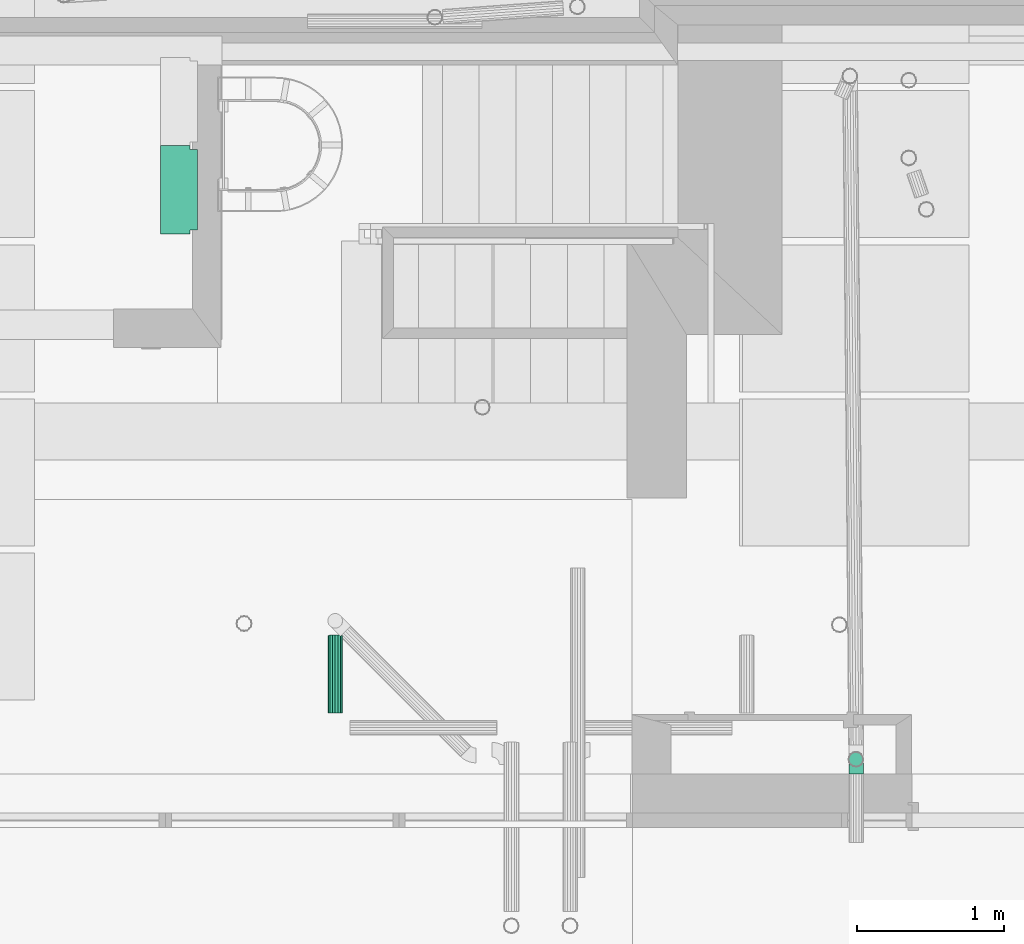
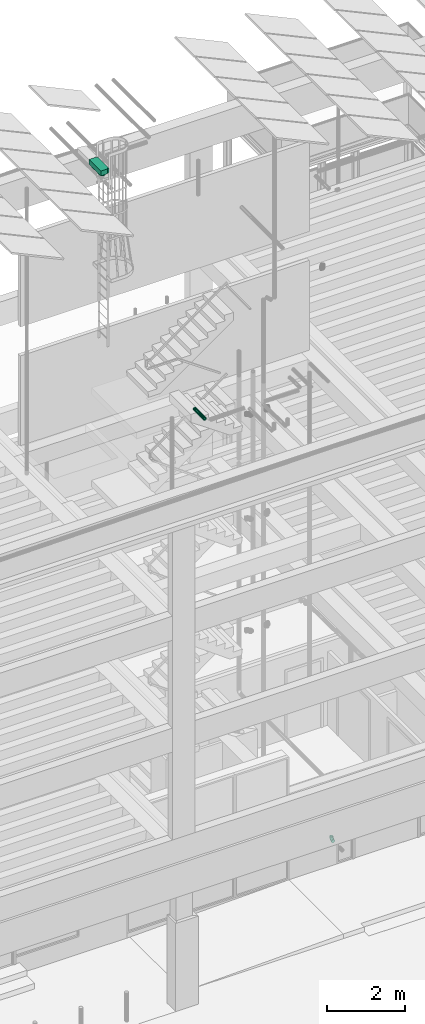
# One storey, part 73 of 106: 2 flow fittings, 1 flow segment.
"""IFC2X3 building model written with IfcOpenShell, lengths in metres."""

from ifc_helpers import new_model, entity, si_unit, converted_unit, derived_unit, money_unit, direction, frame, origin_with_axes, place, context, subcontext, project, spatial, open_shell, faceted_brep, surface_model, material, type_object, element, save


model = new_model("IFC2X3")

# Units and contexts
model_context = context("Model", 3, precision=1e-05, world=origin_with_axes(), true_north=direction((0.0, 1.0)))
body_context = subcontext(model_context, "Body", "Model", "MODEL_VIEW", scale=1.0)
ifc_project = project(units=[si_unit("LENGTHUNIT", "METRE"), si_unit("AREAUNIT", "SQUARE_METRE"), si_unit("VOLUMEUNIT", "CUBIC_METRE"), si_unit("ABSORBEDDOSEUNIT", "GRAY"), si_unit("AMOUNTOFSUBSTANCEUNIT", "MOLE"), si_unit("DOSEEQUIVALENTUNIT", "SIEVERT"), si_unit("ELECTRICCAPACITANCEUNIT", "FARAD"), si_unit("ELECTRICCHARGEUNIT", "COULOMB"), si_unit("ELECTRICCONDUCTANCEUNIT", "SIEMENS"), si_unit("ELECTRICCURRENTUNIT", "AMPERE"), si_unit("ELECTRICRESISTANCEUNIT", "OHM"), si_unit("ELECTRICVOLTAGEUNIT", "VOLT"), si_unit("ENERGYUNIT", "JOULE"), si_unit("FORCEUNIT", "NEWTON"), si_unit("FREQUENCYUNIT", "HERTZ"), si_unit("ILLUMINANCEUNIT", "LUX"), si_unit("INDUCTANCEUNIT", "HENRY"), si_unit("LUMINOUSFLUXUNIT", "LUMEN"), si_unit("LUMINOUSINTENSITYUNIT", "CANDELA"), si_unit("MAGNETICFLUXDENSITYUNIT", "TESLA"), si_unit("MAGNETICFLUXUNIT", "WEBER"), si_unit("MASSUNIT", "GRAM"), converted_unit("PLANEANGLEUNIT", "degree", entity("IfcReal", 0.0174532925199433), si_unit("PLANEANGLEUNIT", "RADIAN"), dimensions=[0, 0, 0, 0, 0, 0, 0]), si_unit("POWERUNIT", "WATT"), si_unit("PRESSUREUNIT", "PASCAL"), si_unit("RADIOACTIVITYUNIT", "BECQUEREL"), si_unit("SOLIDANGLEUNIT", "STERADIAN"), si_unit("THERMODYNAMICTEMPERATUREUNIT", "KELVIN"), si_unit("TIMEUNIT", "SECOND"), derived_unit("ACCELERATIONUNIT", [(si_unit("LENGTHUNIT", "METRE"), 1), (si_unit("TIMEUNIT", "SECOND"), -2)]), derived_unit("ANGULARVELOCITYUNIT", [(converted_unit("PLANEANGLEUNIT", "degree", entity("IfcReal", 0.0174532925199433), si_unit("PLANEANGLEUNIT", "RADIAN"), dimensions=[0, 0, 0, 0, 0, 0, 0]), 1), (si_unit("TIMEUNIT", "SECOND"), -1)]), derived_unit("CURVATUREUNIT", [(converted_unit("PLANEANGLEUNIT", "degree", entity("IfcReal", 0.0174532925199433), si_unit("PLANEANGLEUNIT", "RADIAN"), dimensions=[0, 0, 0, 0, 0, 0, 0]), 1), (si_unit("LENGTHUNIT", "METRE"), -1)]), derived_unit("DYNAMICVISCOSITYUNIT", [(si_unit("PRESSUREUNIT", "PASCAL"), 1), (si_unit("TIMEUNIT", "SECOND"), 1)]), derived_unit("HEATFLUXDENSITYUNIT", [(si_unit("POWERUNIT", "WATT"), 1), (si_unit("LENGTHUNIT", "METRE"), -2)]), derived_unit("HEATINGVALUEUNIT", [(si_unit("ENERGYUNIT", "JOULE"), 1), (si_unit("MASSUNIT", "GRAM"), -1)]), derived_unit("INTEGERCOUNTRATEUNIT", [(si_unit("TIMEUNIT", "SECOND"), -1)]), derived_unit("IONCONCENTRATIONUNIT", [(si_unit("MASSUNIT", "GRAM"), 1), (si_unit("VOLUMEUNIT", "CUBIC_METRE"), -1)]), derived_unit("ISOTHERMALMOISTURECAPACITYUNIT", [(si_unit("VOLUMEUNIT", "CUBIC_METRE"), 1), (si_unit("MASSUNIT", "GRAM"), -1)]), derived_unit("KINEMATICVISCOSITYUNIT", [(si_unit("AREAUNIT", "SQUARE_METRE"), 1), (si_unit("TIMEUNIT", "SECOND"), -1)]), derived_unit("LINEARFORCEUNIT", [(si_unit("FORCEUNIT", "NEWTON"), 1), (si_unit("LENGTHUNIT", "METRE"), -1)]), derived_unit("LINEARMOMENTUNIT", [(si_unit("FORCEUNIT", "NEWTON"), 1), (si_unit("LENGTHUNIT", "METRE"), -1)]), derived_unit("LINEARSTIFFNESSUNIT", [(si_unit("FORCEUNIT", "NEWTON"), 1), (si_unit("LENGTHUNIT", "METRE"), -1)]), derived_unit("LINEARVELOCITYUNIT", [(si_unit("LENGTHUNIT", "METRE"), 1), (si_unit("TIMEUNIT", "SECOND"), -1)]), derived_unit("LUMINOUSINTENSITYDISTRIBUTIONUNIT", [(si_unit("LUMINOUSINTENSITYUNIT", "CANDELA"), 1), (si_unit("LUMINOUSFLUXUNIT", "LUMEN"), -1)]), derived_unit("MASSDENSITYUNIT", [(si_unit("MASSUNIT", "GRAM"), 1), (si_unit("VOLUMEUNIT", "CUBIC_METRE"), -1)]), derived_unit("MASSFLOWRATEUNIT", [(si_unit("MASSUNIT", "GRAM"), 1), (si_unit("TIMEUNIT", "SECOND"), -1)]), derived_unit("MASSPERLENGTHUNIT", [(si_unit("MASSUNIT", "GRAM"), 1), (si_unit("LENGTHUNIT", "METRE"), -1)]), derived_unit("MODULUSOFELASTICITYUNIT", [(si_unit("FORCEUNIT", "NEWTON"), 1), (si_unit("AREAUNIT", "SQUARE_METRE"), -1)]), derived_unit("MODULUSOFLINEARSUBGRADEREACTIONUNIT", [(si_unit("FORCEUNIT", "NEWTON"), 1), (si_unit("LENGTHUNIT", "METRE"), -2)]), derived_unit("MODULUSOFROTATIONALSUBGRADEREACTIONUNIT", [(si_unit("FORCEUNIT", "NEWTON"), 1), (si_unit("LENGTHUNIT", "METRE"), 1)]), derived_unit("MODULUSOFSUBGRADEREACTIONUNIT", [(si_unit("FORCEUNIT", "NEWTON"), 1), (si_unit("VOLUMEUNIT", "CUBIC_METRE"), -1)]), derived_unit("MOISTUREDIFFUSIVITYUNIT", [(si_unit("VOLUMEUNIT", "CUBIC_METRE"), 1), (si_unit("TIMEUNIT", "SECOND"), -1)]), derived_unit("MOLECULARWEIGHTUNIT", [(si_unit("MASSUNIT", "GRAM"), 1), (si_unit("AMOUNTOFSUBSTANCEUNIT", "MOLE"), -1)]), derived_unit("PLANARFORCEUNIT", [(si_unit("FORCEUNIT", "NEWTON"), 1), (si_unit("LENGTHUNIT", "METRE"), -2)]), derived_unit("ROTATIONALFREQUENCYUNIT", [(si_unit("TIMEUNIT", "SECOND"), -1)]), derived_unit("ROTATIONALMASSUNIT", [(si_unit("MASSUNIT", "GRAM"), 1), (si_unit("LENGTHUNIT", "METRE"), 2)]), derived_unit("ROTATIONALSTIFFNESSUNIT", [(si_unit("FORCEUNIT", "NEWTON"), 1), (si_unit("LENGTHUNIT", "METRE"), 1), (converted_unit("PLANEANGLEUNIT", "degree", entity("IfcReal", 0.0174532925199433), si_unit("PLANEANGLEUNIT", "RADIAN"), dimensions=[0, 0, 0, 0, 0, 0, 0]), -1)]), derived_unit("SECTIONAREAINTEGRALUNIT", [(si_unit("LENGTHUNIT", "METRE"), 5)]), derived_unit("SECTIONMODULUSUNIT", [(si_unit("LENGTHUNIT", "METRE"), 3)]), derived_unit("SHEARMODULUSUNIT", [(si_unit("FORCEUNIT", "NEWTON"), 1), (si_unit("AREAUNIT", "SQUARE_METRE"), -1)]), derived_unit("SOUNDPOWERUNIT", [(si_unit("ENERGYUNIT", "JOULE"), 1), (si_unit("TIMEUNIT", "SECOND"), -1)]), derived_unit("SPECIFICHEATCAPACITYUNIT", [(si_unit("FORCEUNIT", "NEWTON"), 1), (si_unit("MASSUNIT", "GRAM"), -1), (si_unit("THERMODYNAMICTEMPERATUREUNIT", "KELVIN"), -1)]), derived_unit("TEMPERATUREGRADIENTUNIT", [(si_unit("THERMODYNAMICTEMPERATUREUNIT", "KELVIN"), 1), (si_unit("LENGTHUNIT", "METRE"), -1)]), derived_unit("THERMALADMITTANCEUNIT", [(si_unit("POWERUNIT", "WATT"), 1), (si_unit("AREAUNIT", "SQUARE_METRE"), -1), (si_unit("THERMODYNAMICTEMPERATUREUNIT", "KELVIN"), -1)]), derived_unit("THERMALCONDUCTANCEUNIT", [(si_unit("POWERUNIT", "WATT"), 1), (si_unit("LENGTHUNIT", "METRE"), -1), (si_unit("THERMODYNAMICTEMPERATUREUNIT", "KELVIN"), -1)]), derived_unit("THERMALEXPANSIONCOEFFICIENTUNIT", [(si_unit("THERMODYNAMICTEMPERATUREUNIT", "KELVIN"), -1)]), derived_unit("THERMALRESISTANCEUNIT", [(si_unit("AREAUNIT", "SQUARE_METRE"), 1), (si_unit("POWERUNIT", "WATT"), -1)]), derived_unit("THERMALTRANSMITTANCEUNIT", [(si_unit("POWERUNIT", "WATT"), 1), (si_unit("AREAUNIT", "SQUARE_METRE"), -1), (si_unit("THERMODYNAMICTEMPERATUREUNIT", "KELVIN"), -1)]), derived_unit("TORQUEUNIT", [(si_unit("FORCEUNIT", "NEWTON"), 1), (si_unit("LENGTHUNIT", "METRE"), 1)]), derived_unit("VAPORPERMEABILITYUNIT", [(si_unit("MASSUNIT", "GRAM"), 1), (si_unit("TIMEUNIT", "SECOND"), -1)]), derived_unit("VOLUMETRICFLOWRATEUNIT", [(si_unit("VOLUMEUNIT", "CUBIC_METRE"), 1), (si_unit("TIMEUNIT", "SECOND"), -1)]), derived_unit("WARPINGCONSTANTUNIT", [(si_unit("LENGTHUNIT", "METRE"), 6)]), derived_unit("WARPINGMOMENTUNIT", [(si_unit("FORCEUNIT", "NEWTON"), 1), (si_unit("LENGTHUNIT", "METRE"), 2)]), money_unit("GBP")], contexts=[model_context])

# Site, building, storey
site_placement = place(None, origin_with_axes())
site = spatial("IfcSite", under=ifc_project, at=site_placement, Name="Site", CompositionType="ELEMENT")
building_placement = place(site_placement, origin_with_axes())
building = spatial("IfcBuilding", under=site, at=building_placement, Name="Building01", CompositionType="ELEMENT")
storey_placement = place(building_placement, origin_with_axes())
storey = spatial("IfcBuildingStorey", under=building, at=storey_placement, Name="GF", CompositionType="ELEMENT", Elevation=0.0)

# Flow fitting
ifc_material_1 = material(Name="M_BSUK_Ventilation")
duct_fitting_type = type_object("IfcDuctFittingType", Name="M-PlenumBoxOvalMultiPort-Side", PredefinedType="JUNCTION")
flow_fitting_1_placement = place(storey_placement, frame((11.1118, 7.799939, 20.693), z_axis=(-1.0, 0.0, 0.0), x_axis=(0.0, 0.0, 1.0)))
element("IfcFlowFitting", 1, at=flow_fitting_1_placement, inside=storey, type_object=duct_fitting_type, material=ifc_material_1, Name="M-PlenumBoxOvalMultiPort-Side", ObjectType="M-PlenumBoxOvalMultiPort-Side", context=body_context, shape_type="SurfaceModel", body=[
    surface_model("IfcShellBasedSurfaceModel", [(-0.075, 0.3, 0.2), (-0.075, 0.3, 0.0), (-0.075, -0.3, 0.0), (-0.075, -0.3, 0.2), (-0.075, 0.076824, 0.171329), (-0.075, 0.055916, 0.160676), (-0.075, 0.039324, 0.144084), (-0.075, 0.028671, 0.123176), (-0.075, 0.025, 0.1), (-0.075, 0.028671, 0.076824), (-0.075, 0.039324, 0.055916), (-0.075, 0.055916, 0.039324), (-0.075, 0.076824, 0.028671), (-0.075, 0.1, 0.025), (-0.075, 0.2, 0.025), (-0.075, 0.223176, 0.028671), (-0.075, 0.244084, 0.039324), (-0.075, 0.260676, 0.055916), (-0.075, 0.271329, 0.076824), (-0.075, 0.275, 0.1), (-0.075, 0.271329, 0.123176), (-0.075, 0.260676, 0.144084), (-0.075, 0.244084, 0.160676), (-0.075, 0.223176, 0.171329), (-0.075, 0.2, 0.175), (-0.075, 0.1, 0.175), (-0.075, -0.223176, 0.171329), (-0.075, -0.244084, 0.160676), (-0.075, -0.260676, 0.144084), (-0.075, -0.271329, 0.123176), (-0.075, -0.275, 0.1), (-0.075, -0.271329, 0.076824), (-0.075, -0.260676, 0.055916), (-0.075, -0.244084, 0.039324), (-0.075, -0.223176, 0.028671), (-0.075, -0.2, 0.025), (-0.075, -0.1, 0.025), (-0.075, -0.076824, 0.028671), (-0.075, -0.055916, 0.039324), (-0.075, -0.039324, 0.055916), (-0.075, -0.028671, 0.076824), (-0.075, -0.025, 0.1), (-0.075, -0.028671, 0.123176), (-0.075, -0.039324, 0.144084), (-0.075, -0.055916, 0.160676), (-0.075, -0.076824, 0.171329), (-0.075, -0.1, 0.175), (-0.075, -0.2, 0.175), (0.075, 0.3, 0.2), (0.075, 0.3, 0.0), (0.075, -0.3, 0.0), (0.075, -0.3, 0.2), (-0.07495, -0.275, 0.0), (0.07495, -0.275, 0.0), (0.07495, 0.275, 0.0), (-0.07495, 0.275, 0.0), (0.075, 0.275, -0.05), (-0.075, 0.275, -0.05), (-0.075, 0.275, 0.0), (0.075, 0.275, 0.0), (-0.075, -0.275, -0.05), (-0.075, -0.275, 0.0), (0.075, -0.275, -0.05), (0.075, -0.275, 0.0), (-0.125, -0.2, 0.175), (-0.125, -0.1, 0.175), (-0.125, -0.1, 0.025), (-0.125, -0.076824, 0.028671), (-0.125, -0.055916, 0.039324), (-0.125, -0.039324, 0.055916), (-0.125, -0.028671, 0.076824), (-0.125, -0.025, 0.1), (-0.125, -0.028671, 0.123176), (-0.125, -0.039324, 0.144084), (-0.125, -0.055916, 0.160676), (-0.125, -0.076824, 0.171329), (-0.125, -0.2, 0.025), (-0.125, -0.223176, 0.171329), (-0.125, -0.244084, 0.160676), (-0.125, -0.260676, 0.144084), (-0.125, -0.271329, 0.123176), (-0.125, -0.275, 0.1), (-0.125, -0.271329, 0.076824), (-0.125, -0.260676, 0.055916), (-0.125, -0.244084, 0.039324), (-0.125, -0.223176, 0.028671), (-0.125, 0.1, 0.175), (-0.125, 0.2, 0.175), (-0.125, 0.2, 0.025), (-0.125, 0.223176, 0.028671), (-0.125, 0.244084, 0.039324), (-0.125, 0.260676, 0.055916), (-0.125, 0.271329, 0.076824), (-0.125, 0.275, 0.1), (-0.125, 0.271329, 0.123176), (-0.125, 0.260676, 0.144084), (-0.125, 0.244084, 0.160676), (-0.125, 0.223176, 0.171329), (-0.125, 0.1, 0.025), (-0.125, 0.076824, 0.171329), (-0.125, 0.055916, 0.160676), (-0.125, 0.039324, 0.144084), (-0.125, 0.028671, 0.123176), (-0.125, 0.025, 0.1), (-0.125, 0.028671, 0.076824), (-0.125, 0.039324, 0.055916), (-0.125, 0.055916, 0.039324), (-0.125, 0.076824, 0.028671)], [open_shell([[[0, 1, 2, 3], [4, 5, 6, 7, 8, 9, 10, 11, 12, 13, 14, 15, 16, 17, 18, 19, 20, 21, 22, 23, 24, 25], [26, 27, 28, 29, 30, 31, 32, 33, 34, 35, 36, 37, 38, 39, 40, 41, 42, 43, 44, 45, 46, 47]], [[48, 49, 1, 0]], [[3, 2, 50, 51]], [[49, 50, 2, 1], [52, 53, 54, 55]], [[56, 57, 58, 55, 54, 59]], [[57, 60, 61, 58]], [[62, 56, 59, 63]], [[60, 62, 63, 53, 52, 61]], [[64, 47, 46, 65]], [[36, 66, 67, 37]], [[37, 67, 68, 38]], [[38, 68, 69, 39]], [[39, 69, 70, 40]], [[40, 70, 71, 41]], [[41, 71, 72, 42]], [[42, 72, 73, 43]], [[43, 73, 74, 44]], [[44, 74, 75, 45]], [[45, 75, 65, 46]], [[66, 36, 35, 76]], [[47, 64, 77, 26]], [[26, 77, 78, 27]], [[27, 78, 79, 28]], [[28, 79, 80, 29]], [[29, 80, 81, 30]], [[30, 81, 82, 31]], [[31, 82, 83, 32]], [[32, 83, 84, 33]], [[33, 84, 85, 34]], [[34, 85, 76, 35]], [[86, 25, 24, 87]], [[14, 88, 89, 15]], [[15, 89, 90, 16]], [[16, 90, 91, 17]], [[17, 91, 92, 18]], [[18, 92, 93, 19]], [[19, 93, 94, 20]], [[20, 94, 95, 21]], [[21, 95, 96, 22]], [[22, 96, 97, 23]], [[23, 97, 87, 24]], [[88, 14, 13, 98]], [[25, 86, 99, 4]], [[4, 99, 100, 5]], [[5, 100, 101, 6]], [[6, 101, 102, 7]], [[7, 102, 103, 8]], [[8, 103, 104, 9]], [[9, 104, 105, 10]], [[10, 105, 106, 11]], [[11, 106, 107, 12]], [[12, 107, 98, 13]], [[49, 48, 51, 50]], [[51, 48, 0, 3]]])]),
])

# Flow segment
ifc_material_2 = material(Name="M_BSUK_ColdWater")
pipe_segment_type = type_object("IfcPipeSegmentType", Name="M-BmpStraightpipe-DefaultPipe", PredefinedType="RIGIDSEGMENT")
flow_segment_placement = place(storey_placement, frame((12.1, 4.239405, 14.607338), z_axis=(0.0, 0.01249902, 0.99992188), x_axis=(0.0, 0.99992188, -0.01249902)))
element("IfcFlowSegment", 2, at=flow_segment_placement, inside=storey, type_object=pipe_segment_type, material=ifc_material_2, Name="M-BmpStraightpipe-DefaultPipe", ObjectType="M-BmpStraightpipe-DefaultPipe", context=body_context, shape_type="Brep", body=[
    faceted_brep([(0.528362, 0.0, -0.05), (0.0, 0.0, -0.05), (0.0, 0.019134, -0.046194), (0.528362, 0.019134, -0.046194), (0.0, 0.035355, -0.035355), (0.528362, 0.035355, -0.035355), (0.0, 0.046194, -0.019134), (0.528362, 0.046194, -0.019134), (0.0, 0.05, 0.0), (0.528362, 0.05, 0.0), (0.0, 0.046194, 0.019134), (0.528362, 0.046194, 0.019134), (0.0, 0.035355, 0.035355), (0.528362, 0.035355, 0.035355), (0.0, 0.019134, 0.046194), (0.528362, 0.019134, 0.046194), (0.0, 0.0, 0.05), (0.528362, 0.0, 0.05), (0.0, -0.019134, 0.046194), (0.528362, -0.019134, 0.046194), (0.0, -0.035355, 0.035355), (0.528362, -0.035355, 0.035355), (0.0, -0.046194, 0.019134), (0.528362, -0.046194, 0.019134), (0.0, -0.05, 0.0), (0.528362, -0.05, 0.0), (0.0, -0.046194, -0.019134), (0.528362, -0.046194, -0.019134), (0.0, -0.035355, -0.035355), (0.528362, -0.035355, -0.035355), (0.0, -0.019134, -0.046194), (0.528362, -0.019134, -0.046194)], [[[0, 1, 2, 3]], [[3, 2, 4, 5]], [[5, 4, 6, 7]], [[7, 6, 8, 9]], [[9, 8, 10, 11]], [[11, 10, 12, 13]], [[13, 12, 14, 15]], [[15, 14, 16, 17]], [[17, 16, 18, 19]], [[19, 18, 20, 21]], [[21, 20, 22, 23]], [[23, 22, 24, 25]], [[25, 24, 26, 27]], [[27, 26, 28, 29]], [[29, 28, 30, 31]], [[31, 30, 1, 0]]]),
])

# Space
space_placement = place(storey_placement, frame((14.38433, 4.15747, 0.0), z_axis=(0.0, 0.0, 1.0), x_axis=(0.0, -1.0, 0.0)))
space = spatial("IfcSpace", under=storey, at=space_placement, Name="1", CompositionType="ELEMENT", InteriorOrExteriorSpace="NOTDEFINED")

# Flow fitting
pipe_fitting_type = type_object("IfcPipeFittingType", Name="M-BmpElbow-DefaultElbow", PredefinedType="BEND")
flow_fitting_2_placement = place(storey_placement, frame((15.645168, 3.923337, 0.549988), z_axis=(0.0, 1.0, 0.0), x_axis=(0.0, 0.0, -1.0)))
element("IfcFlowFitting", 3, at=flow_fitting_2_placement, inside=space, type_object=pipe_fitting_type, material=ifc_material_2, Name="M-BmpElbow-DefaultElbow", ObjectType="M-BmpElbow-DefaultElbow", context=body_context, shape_type="SurfaceModel", body=[
    surface_model("IfcShellBasedSurfaceModel", [(0.008048, -0.01349, -0.048774), (0.0, -0.01349, -0.048146), (0.0, 0.0, -0.05), (0.00776, 0.0, -0.050606), (0.0159, -0.01349, -0.050644), (0.015332, 0.0, -0.052409), (0.023368, -0.01349, -0.05371), (0.022532, 0.0, -0.055365), (0.030269, -0.01349, -0.057897), (0.029187, 0.0, -0.059403), (0.036437, -0.01349, -0.063105), (0.035134, 0.0, -0.064424), (0.041721, -0.01349, -0.069207), (0.040229, 0.0, -0.070308), (0.045995, -0.01349, -0.076055), (0.04435, 0.0, -0.076912), (0.049154, -0.01349, -0.083484), (0.047396, 0.0, -0.084074), (0.051121, -0.01349, -0.091313), (0.049293, 0.0, -0.091623), (0.05185, -0.01349, -0.099352), (0.049996, 0.0, -0.099375), (0.00889, -0.025979, -0.043415), (0.0, -0.025979, -0.042721), (0.017564, -0.025979, -0.04548), (0.025813, -0.025979, -0.048867), (0.033436, -0.025979, -0.053493), (0.040248, -0.025979, -0.059245), (0.046086, -0.025979, -0.065986), (0.050807, -0.025979, -0.07355), (0.054296, -0.025979, -0.081756), (0.056469, -0.025979, -0.090404), (0.057275, -0.025979, -0.099284), (0.010223, -0.036542, -0.034926), (0.0, -0.036542, -0.034128), (0.020199, -0.036542, -0.037301), (0.029685, -0.036542, -0.041196), (0.038452, -0.036542, -0.046515), (0.046287, -0.036542, -0.053131), (0.053, -0.036542, -0.060883), (0.058429, -0.036542, -0.069582), (0.062442, -0.036542, -0.079019), (0.064941, -0.036542, -0.088964), (0.065867, -0.036542, -0.099177), (0.01195, -0.044394, -0.023936), (0.0, -0.044394, -0.023003), (0.02361, -0.044394, -0.026712), (0.034698, -0.044394, -0.031265), (0.044946, -0.044394, -0.037483), (0.054104, -0.044394, -0.045216), (0.061951, -0.044394, -0.054277), (0.068296, -0.044394, -0.064445), (0.072987, -0.044394, -0.075476), (0.075908, -0.044394, -0.0871), (0.076991, -0.044394, -0.099038), (0.013941, -0.048954, -0.011261), (0.0, -0.048954, -0.010173), (0.027544, -0.048954, -0.0145), (0.04048, -0.048954, -0.019811), (0.052435, -0.048954, -0.027065), (0.063119, -0.048954, -0.036087), (0.072274, -0.048954, -0.046657), (0.079677, -0.048954, -0.058521), (0.085149, -0.048954, -0.071389), (0.088558, -0.048954, -0.084951), (0.08982, -0.048954, -0.098877), (0.01605, -0.049883, 0.002159), (0.0, -0.049883, 0.003412), (0.03171, -0.049883, -0.00157), (0.046602, -0.049883, -0.007684), (0.060365, -0.049883, -0.016035), (0.072665, -0.049883, -0.026421), (0.083204, -0.049883, -0.03859), (0.091727, -0.049883, -0.052247), (0.098026, -0.049883, -0.067062), (0.101951, -0.049883, -0.082675), (0.103404, -0.049883, -0.098707), (0.018119, -0.047113, 0.015329), (0.0, -0.047113, 0.016744), (0.035798, -0.047113, 0.01112), (0.05261, -0.047113, 0.004218), (0.068147, -0.047113, -0.00521), (0.082033, -0.047113, -0.016935), (0.093931, -0.047113, -0.030673), (0.103552, -0.047113, -0.046091), (0.110664, -0.047113, -0.062816), (0.115094, -0.047113, -0.080441), (0.116735, -0.047113, -0.098541), (0.019995, -0.040848, 0.027273), (0.0, -0.040848, 0.028834), (0.039505, -0.040848, 0.022628), (0.058059, -0.040848, 0.01501), (0.075205, -0.040848, 0.004606), (0.090528, -0.040848, -0.008333), (0.103658, -0.040848, -0.023494), (0.114276, -0.040848, -0.040508), (0.122124, -0.040848, -0.058965), (0.127013, -0.040848, -0.078416), (0.128824, -0.040848, -0.09839), (0.021539, -0.031554, 0.037104), (0.0, -0.031554, 0.038786), (0.042557, -0.031554, 0.0321), (0.062543, -0.031554, 0.023894), (0.081014, -0.031554, 0.012686), (0.097521, -0.031554, -0.001252), (0.111665, -0.031554, -0.017584), (0.123103, -0.031554, -0.035913), (0.131557, -0.031554, -0.055795), (0.136824, -0.031554, -0.076749), (0.138775, -0.031554, -0.098265), (0.022638, -0.01992, 0.044093), (0.0, -0.01992, 0.045861), (0.044726, -0.01992, 0.038834), (0.065732, -0.01992, 0.03021), (0.085144, -0.01992, 0.018431), (0.102492, -0.01992, 0.003782), (0.117357, -0.01992, -0.013383), (0.129378, -0.01992, -0.032646), (0.138264, -0.01992, -0.053542), (0.143799, -0.01992, -0.075563), (0.145849, -0.01992, -0.098177), (0.023208, -0.006808, 0.047722), (0.0, -0.006808, 0.049534), (0.045853, -0.006808, 0.042331), (0.067387, -0.006808, 0.03349), (0.087288, -0.006808, 0.021414), (0.105074, -0.006808, 0.006395), (0.120313, -0.006808, -0.011201), (0.132637, -0.006808, -0.03095), (0.141746, -0.006808, -0.052372), (0.147421, -0.006808, -0.074948), (0.149523, -0.006808, -0.098131), (0.023208, 0.006808, 0.047722), (0.0, 0.006808, 0.049534), (0.045853, 0.006808, 0.042331), (0.067387, 0.006808, 0.03349), (0.087288, 0.006808, 0.021414), (0.105074, 0.006808, 0.006395), (0.120313, 0.006808, -0.011201), (0.132637, 0.006808, -0.03095), (0.141746, 0.006808, -0.052372), (0.147421, 0.006808, -0.074948), (0.149523, 0.006808, -0.098131), (0.022638, 0.01992, 0.044093), (0.0, 0.01992, 0.045861), (0.044726, 0.01992, 0.038834), (0.065732, 0.01992, 0.03021), (0.085144, 0.01992, 0.018431), (0.102492, 0.01992, 0.003782), (0.117357, 0.01992, -0.013383), (0.129378, 0.01992, -0.032646), (0.138264, 0.01992, -0.053542), (0.143799, 0.01992, -0.075563), (0.145849, 0.01992, -0.098177), (0.021539, 0.031554, 0.037104), (0.0, 0.031554, 0.038786), (0.042557, 0.031554, 0.0321), (0.062543, 0.031554, 0.023894), (0.081014, 0.031554, 0.012686), (0.097521, 0.031554, -0.001252), (0.111665, 0.031554, -0.017584), (0.123103, 0.031554, -0.035913), (0.131557, 0.031554, -0.055795), (0.136824, 0.031554, -0.076749), (0.138775, 0.031554, -0.098265), (0.019995, 0.040848, 0.027273), (0.0, 0.040848, 0.028834), (0.039505, 0.040848, 0.022628), (0.058059, 0.040848, 0.01501), (0.075205, 0.040848, 0.004606), (0.090528, 0.040848, -0.008333), (0.103658, 0.040848, -0.023494), (0.114276, 0.040848, -0.040508), (0.122124, 0.040848, -0.058965), (0.127013, 0.040848, -0.078416), (0.128824, 0.040848, -0.09839), (0.018119, 0.047113, 0.015329), (0.0, 0.047113, 0.016744), (0.035798, 0.047113, 0.01112), (0.05261, 0.047113, 0.004218), (0.068147, 0.047113, -0.00521), (0.082033, 0.047113, -0.016935), (0.093931, 0.047113, -0.030673), (0.103552, 0.047113, -0.046091), (0.110664, 0.047113, -0.062816), (0.115094, 0.047113, -0.080441), (0.116735, 0.047113, -0.098541), (0.01605, 0.049883, 0.002159), (0.0, 0.049883, 0.003412), (0.03171, 0.049883, -0.00157), (0.046602, 0.049883, -0.007684), (0.060365, 0.049883, -0.016035), (0.072665, 0.049883, -0.026421), (0.083204, 0.049883, -0.03859), (0.091727, 0.049883, -0.052247), (0.098026, 0.049883, -0.067062), (0.101951, 0.049883, -0.082675), (0.103404, 0.049883, -0.098707), (0.013941, 0.048954, -0.011261), (0.0, 0.048954, -0.010173), (0.027544, 0.048954, -0.0145), (0.04048, 0.048954, -0.019811), (0.052435, 0.048954, -0.027065), (0.063119, 0.048954, -0.036087), (0.072274, 0.048954, -0.046657), (0.079677, 0.048954, -0.058521), (0.085149, 0.048954, -0.071389), (0.088558, 0.048954, -0.084951), (0.08982, 0.048954, -0.098877), (0.01195, 0.044394, -0.023936), (0.0, 0.044394, -0.023003), (0.02361, 0.044394, -0.026712), (0.034698, 0.044394, -0.031265), (0.044946, 0.044394, -0.037483), (0.054104, 0.044394, -0.045216), (0.061951, 0.044394, -0.054277), (0.068296, 0.044394, -0.064445), (0.072987, 0.044394, -0.075476), (0.075908, 0.044394, -0.0871), (0.076991, 0.044394, -0.099038), (0.010223, 0.036542, -0.034926), (0.0, 0.036542, -0.034128), (0.020199, 0.036542, -0.037301), (0.029685, 0.036542, -0.041196), (0.038452, 0.036542, -0.046515), (0.046287, 0.036542, -0.053131), (0.053, 0.036542, -0.060883), (0.058429, 0.036542, -0.069582), (0.062442, 0.036542, -0.079019), (0.064941, 0.036542, -0.088964), (0.065867, 0.036542, -0.099177), (0.00889, 0.025979, -0.043415), (0.0, 0.025979, -0.042721), (0.017564, 0.025979, -0.04548), (0.025813, 0.025979, -0.048867), (0.033436, 0.025979, -0.053493), (0.040248, 0.025979, -0.059245), (0.046086, 0.025979, -0.065986), (0.050807, 0.025979, -0.07355), (0.054296, 0.025979, -0.081756), (0.056469, 0.025979, -0.090404), (0.057275, 0.025979, -0.099284), (0.008048, 0.01349, -0.048774), (0.0, 0.01349, -0.048146), (0.0159, 0.01349, -0.050644), (0.023368, 0.01349, -0.05371), (0.030269, 0.01349, -0.057897), (0.036437, 0.01349, -0.063105), (0.041721, 0.01349, -0.069207), (0.045995, 0.01349, -0.076055), (0.049154, 0.01349, -0.083484), (0.051121, 0.01349, -0.091313), (0.05185, 0.01349, -0.099352)], [open_shell([[[0, 1, 2, 3]], [[4, 0, 3, 5]], [[6, 4, 5, 7]], [[8, 6, 7, 9]], [[10, 8, 9, 11]], [[12, 10, 11, 13]], [[14, 12, 13, 15]], [[16, 14, 15, 17]], [[18, 16, 17, 19]], [[20, 18, 19, 21]], [[22, 23, 1, 0]], [[24, 22, 0, 4]], [[25, 24, 4, 6]], [[26, 25, 6, 8]], [[27, 26, 8, 10]], [[28, 27, 10, 12]], [[29, 28, 12, 14]], [[30, 29, 14, 16]], [[31, 30, 16, 18]], [[32, 31, 18, 20]], [[33, 34, 23, 22]], [[35, 33, 22, 24]], [[36, 35, 24, 25]], [[37, 36, 25, 26]], [[38, 37, 26, 27]], [[39, 38, 27, 28]], [[40, 39, 28, 29]], [[41, 40, 29, 30]], [[42, 41, 30, 31]], [[43, 42, 31, 32]], [[44, 45, 34, 33]], [[46, 44, 33, 35]], [[47, 46, 35, 36]], [[48, 47, 36, 37]], [[49, 48, 37, 38]], [[50, 49, 38, 39]], [[51, 50, 39, 40]], [[52, 51, 40, 41]], [[53, 52, 41, 42]], [[54, 53, 42, 43]], [[55, 56, 45, 44]], [[57, 55, 44, 46]], [[58, 57, 46, 47]], [[59, 58, 47, 48]], [[60, 59, 48, 49]], [[61, 60, 49, 50]], [[62, 61, 50, 51]], [[63, 62, 51, 52]], [[64, 63, 52, 53]], [[65, 64, 53, 54]], [[66, 67, 56, 55]], [[68, 66, 55, 57]], [[69, 68, 57, 58]], [[70, 69, 58, 59]], [[71, 70, 59, 60]], [[72, 71, 60, 61]], [[73, 72, 61, 62]], [[74, 73, 62, 63]], [[75, 74, 63, 64]], [[76, 75, 64, 65]], [[77, 78, 67, 66]], [[79, 77, 66, 68]], [[80, 79, 68, 69]], [[81, 80, 69, 70]], [[82, 81, 70, 71]], [[83, 82, 71, 72]], [[84, 83, 72, 73]], [[85, 84, 73, 74]], [[86, 85, 74, 75]], [[87, 86, 75, 76]], [[88, 89, 78, 77]], [[90, 88, 77, 79]], [[91, 90, 79, 80]], [[92, 91, 80, 81]], [[93, 92, 81, 82]], [[94, 93, 82, 83]], [[95, 94, 83, 84]], [[96, 95, 84, 85]], [[97, 96, 85, 86]], [[98, 97, 86, 87]], [[99, 100, 89, 88]], [[101, 99, 88, 90]], [[102, 101, 90, 91]], [[103, 102, 91, 92]], [[104, 103, 92, 93]], [[105, 104, 93, 94]], [[106, 105, 94, 95]], [[107, 106, 95, 96]], [[108, 107, 96, 97]], [[109, 108, 97, 98]], [[110, 111, 100, 99]], [[112, 110, 99, 101]], [[113, 112, 101, 102]], [[114, 113, 102, 103]], [[115, 114, 103, 104]], [[116, 115, 104, 105]], [[117, 116, 105, 106]], [[118, 117, 106, 107]], [[119, 118, 107, 108]], [[120, 119, 108, 109]], [[121, 122, 111, 110]], [[123, 121, 110, 112]], [[124, 123, 112, 113]], [[125, 124, 113, 114]], [[126, 125, 114, 115]], [[127, 126, 115, 116]], [[128, 127, 116, 117]], [[129, 128, 117, 118]], [[130, 129, 118, 119]], [[131, 130, 119, 120]], [[132, 133, 122, 121]], [[134, 132, 121, 123]], [[135, 134, 123, 124]], [[136, 135, 124, 125]], [[137, 136, 125, 126]], [[138, 137, 126, 127]], [[139, 138, 127, 128]], [[140, 139, 128, 129]], [[141, 140, 129, 130]], [[142, 141, 130, 131]], [[143, 144, 133, 132]], [[145, 143, 132, 134]], [[146, 145, 134, 135]], [[147, 146, 135, 136]], [[148, 147, 136, 137]], [[149, 148, 137, 138]], [[150, 149, 138, 139]], [[151, 150, 139, 140]], [[152, 151, 140, 141]], [[153, 152, 141, 142]], [[154, 155, 144, 143]], [[156, 154, 143, 145]], [[157, 156, 145, 146]], [[158, 157, 146, 147]], [[159, 158, 147, 148]], [[160, 159, 148, 149]], [[161, 160, 149, 150]], [[162, 161, 150, 151]], [[163, 162, 151, 152]], [[164, 163, 152, 153]], [[165, 166, 155, 154]], [[167, 165, 154, 156]], [[168, 167, 156, 157]], [[169, 168, 157, 158]], [[170, 169, 158, 159]], [[171, 170, 159, 160]], [[172, 171, 160, 161]], [[173, 172, 161, 162]], [[174, 173, 162, 163]], [[175, 174, 163, 164]], [[176, 177, 166, 165]], [[178, 176, 165, 167]], [[179, 178, 167, 168]], [[180, 179, 168, 169]], [[181, 180, 169, 170]], [[182, 181, 170, 171]], [[183, 182, 171, 172]], [[184, 183, 172, 173]], [[185, 184, 173, 174]], [[186, 185, 174, 175]], [[187, 188, 177, 176]], [[189, 187, 176, 178]], [[190, 189, 178, 179]], [[191, 190, 179, 180]], [[192, 191, 180, 181]], [[193, 192, 181, 182]], [[194, 193, 182, 183]], [[195, 194, 183, 184]], [[196, 195, 184, 185]], [[197, 196, 185, 186]], [[198, 199, 188, 187]], [[200, 198, 187, 189]], [[201, 200, 189, 190]], [[202, 201, 190, 191]], [[203, 202, 191, 192]], [[204, 203, 192, 193]], [[205, 204, 193, 194]], [[206, 205, 194, 195]], [[207, 206, 195, 196]], [[208, 207, 196, 197]], [[209, 210, 199, 198]], [[211, 209, 198, 200]], [[212, 211, 200, 201]], [[213, 212, 201, 202]], [[214, 213, 202, 203]], [[215, 214, 203, 204]], [[216, 215, 204, 205]], [[217, 216, 205, 206]], [[218, 217, 206, 207]], [[219, 218, 207, 208]], [[220, 221, 210, 209]], [[222, 220, 209, 211]], [[223, 222, 211, 212]], [[224, 223, 212, 213]], [[225, 224, 213, 214]], [[226, 225, 214, 215]], [[227, 226, 215, 216]], [[228, 227, 216, 217]], [[229, 228, 217, 218]], [[230, 229, 218, 219]], [[231, 232, 221, 220]], [[233, 231, 220, 222]], [[234, 233, 222, 223]], [[235, 234, 223, 224]], [[236, 235, 224, 225]], [[237, 236, 225, 226]], [[238, 237, 226, 227]], [[239, 238, 227, 228]], [[240, 239, 228, 229]], [[241, 240, 229, 230]], [[242, 243, 232, 231]], [[244, 242, 231, 233]], [[245, 244, 233, 234]], [[246, 245, 234, 235]], [[247, 246, 235, 236]], [[248, 247, 236, 237]], [[249, 248, 237, 238]], [[250, 249, 238, 239]], [[251, 250, 239, 240]], [[252, 251, 240, 241]], [[3, 2, 243, 242]], [[5, 3, 242, 244]], [[7, 5, 244, 245]], [[9, 7, 245, 246]], [[11, 9, 246, 247]], [[13, 11, 247, 248]], [[15, 13, 248, 249]], [[17, 15, 249, 250]], [[19, 17, 250, 251]], [[21, 19, 251, 252]]])]),
])

save(model, "model.ifc")
